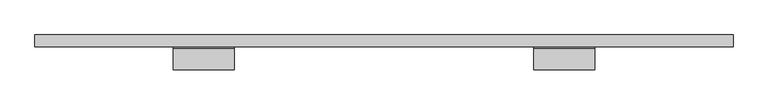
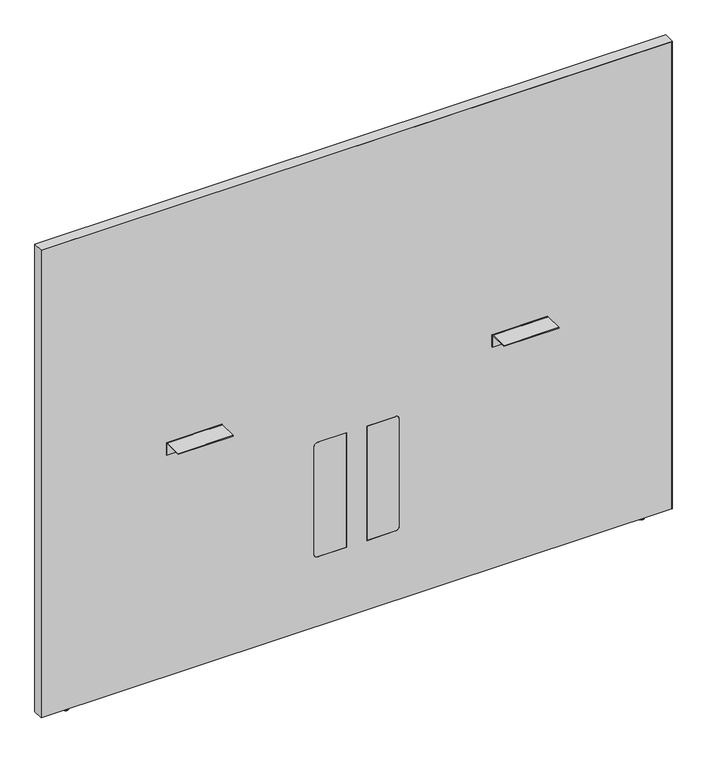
"""IFC4 building model written with IfcOpenShell, lengths in millimetres: furniture geometry, Steelcase - Answer Solution - Boundary Screen - Straight - Spanning : 54H x 69W."""

import ifcopenshell
import ifcopenshell.guid

model = None  # the IFC model being written
_history = None  # IfcOwnerHistory: only IFC2X3 demands one
_inside = {}  # id of a spatial element -> (the spatial element, [elements in it])
_under = {}  # id of a project, library or spatial element -> (it, [spatial elements below it])
_declared = {}  # id of a project -> (the project, [libraries it declares])
_typed = {}  # id of a type object -> (the type object, [elements of that type])
_made_of = {}  # id of a material, layer set ... -> (it, [elements and type objects made of it])


def new_model(schema):
    """Start an empty IFC model of exactly this schema.

    Asked for "IFC4X3", IfcOpenShell would pick the latest addendum, in which some entities
    have other attributes; the version numbers below select the first issue.
    IFC2X3 requires an IfcOwnerHistory on every rooted entity: one is made here for all.
    """
    global model, _history
    if schema == "IFC4X3":
        model = ifcopenshell.file(schema_version=(4, 3, 0, 0))
    else:
        model = ifcopenshell.file(schema=schema)
    _inside.clear()
    _under.clear()
    _declared.clear()
    _typed.clear()
    _made_of.clear()
    _history = None
    if model.schema == "IFC2X3":
        org = make("IfcOrganization", Name="unknown")
        user = make(
            "IfcPersonAndOrganization",
            ThePerson=make("IfcPerson", FamilyName="unknown"),
            TheOrganization=org,
        )
        app = make(
            "IfcApplication",
            ApplicationDeveloper=org,
            Version="unknown",
            ApplicationFullName="unknown",
            ApplicationIdentifier="unknown",
        )
        _history = make(
            "IfcOwnerHistory",
            OwningUser=user,
            OwningApplication=app,
            ChangeAction="ADDED",
            CreationDate=0,
        )
    return model


def make(cls, **values):
    """One entity of the class cls with the attributes given. An attribute that is None is left unset."""
    return model.create_entity(
        cls, **{name: value for name, value in values.items() if value is not None}
    )


def rooted(cls, **values):
    """An entity with a GlobalId (a new one), such as an element, a storey or a relation."""
    return make(cls, GlobalId=ifcopenshell.guid.new(), OwnerHistory=_history, **values)


def si_unit(unit_type, name, prefix=None):
    """IfcSIUnit, for example si_unit("LENGTHUNIT", "METRE", prefix="MILLI")."""
    return make("IfcSIUnit", UnitType=unit_type, Prefix=prefix, Name=name)


def assignment(units):
    """IfcUnitAssignment: the units of a project."""
    return None if units is None else make("IfcUnitAssignment", Units=units)


def point(xyz):
    """IfcCartesianPoint."""
    return None if xyz is None else make("IfcCartesianPoint", Coordinates=xyz)


def direction(xyz):
    """IfcDirection."""
    return None if xyz is None else make("IfcDirection", DirectionRatios=xyz)


def frame(location, z_axis=None, x_axis=None):
    """IfcAxis2Placement3D, a coordinate frame: its origin and axes. An axis left out is left unset."""
    return make(
        "IfcAxis2Placement3D",
        Location=point(location),
        Axis=direction(z_axis),
        RefDirection=direction(x_axis),
    )


def frame_2d(location, x_axis=None):
    """IfcAxis2Placement2D, a coordinate frame in the plane: its origin and x axis."""
    return make(
        "IfcAxis2Placement2D", Location=point(location), RefDirection=direction(x_axis)
    )


def origin():
    """The frame at (0, 0, 0) with its axes left unset."""
    return frame((0.0, 0.0, 0.0))


def place(relative_to, where):
    """IfcLocalPlacement: puts the frame where relative to a parent placement (None: the world)."""
    return make(
        "IfcLocalPlacement", PlacementRelTo=relative_to, RelativePlacement=where
    )


def context(
    kind, dimensions, precision=None, world=None, true_north=None, identifier=None
):
    """IfcGeometricRepresentationContext, for example the 3D "Model" context."""
    return make(
        "IfcGeometricRepresentationContext",
        ContextIdentifier=identifier,
        ContextType=kind,
        CoordinateSpaceDimension=dimensions,
        Precision=precision,
        WorldCoordinateSystem=world,
        TrueNorth=true_north,
    )


def project(units=None, contexts=None):
    """IfcProject with its units and contexts."""
    return rooted(
        "IfcProject",
        Name="project",
        RepresentationContexts=contexts,
        UnitsInContext=assignment(units),
    )


def spatial(cls, under=None, at=None, **own):
    """A site, building, storey or space (cls), placed at a placement, below another one or the project."""
    s = rooted(cls, ObjectPlacement=at, **own)
    if under is not None:
        _under.setdefault(under.id(), (under, []))[1].append(s)
    return s


def polyline(points):
    """IfcPolyline through the points."""
    return make("IfcPolyline", Points=[point(p) for p in points])


def circle_curve(where, radius):
    """IfcCircle in the frame where."""
    return make("IfcCircle", Position=where, Radius=radius)


def ellipse_curve(where, semi_axis1, semi_axis2):
    """IfcEllipse in the frame where."""
    return make(
        "IfcEllipse", Position=where, SemiAxis1=semi_axis1, SemiAxis2=semi_axis2
    )


def trimmed(basis, trim1, trim2, sense, master):
    """IfcTrimmedCurve: the piece of a basis curve between two trims."""
    return make(
        "IfcTrimmedCurve",
        BasisCurve=basis,
        Trim1=trim1,
        Trim2=trim2,
        SenseAgreement=sense,
        MasterRepresentation=master,
    )


def segment(curve, same_sense, transition):
    """IfcCompositeCurveSegment."""
    return make(
        "IfcCompositeCurveSegment",
        Transition=transition,
        SameSense=same_sense,
        ParentCurve=curve,
    )


def composite_curve(segments, self_intersect=None):
    """IfcCompositeCurve: segments joined end to end."""
    return make("IfcCompositeCurve", Segments=segments, SelfIntersect=self_intersect)


def outline(outer, holes=None, kind="AREA"):
    """IfcArbitraryClosedProfileDef: a profile drawn as a closed curve; with holes, ...WithVoids."""
    if holes is None:
        return make("IfcArbitraryClosedProfileDef", ProfileType=kind, OuterCurve=outer)
    return make(
        "IfcArbitraryProfileDefWithVoids",
        ProfileType=kind,
        OuterCurve=outer,
        InnerCurves=holes,
    )


def extrude(swept, where, along, depth):
    """IfcExtrudedAreaSolid: the profile swept, set in the frame where, extruded along a direction by depth."""
    return make(
        "IfcExtrudedAreaSolid",
        SweptArea=swept,
        Position=where,
        ExtrudedDirection=direction(along),
        Depth=depth,
    )


def shape(context_of_items, identifier, shape_type, items):
    """IfcShapeRepresentation: the items that make up one representation, for example the "Body"."""
    return make(
        "IfcShapeRepresentation",
        ContextOfItems=context_of_items,
        RepresentationIdentifier=identifier,
        RepresentationType=shape_type,
        Items=items,
    )


def source(mapping_origin, context_of_items, identifier, shape_type, items):
    """IfcRepresentationMap: a shape defined once, which mapped items show again and again."""
    return make(
        "IfcRepresentationMap",
        MappingOrigin=mapping_origin,
        MappedRepresentation=shape(context_of_items, identifier, shape_type, items),
    )


def transform(
    local_origin,
    x_axis=None,
    y_axis=None,
    z_axis=None,
    scale=None,
    scale2=None,
    scale3=None,
    uniform=True,
):
    """IfcCartesianTransformationOperator3D, or its non-uniform kind. x_axis, y_axis, z_axis: its Axis1, 2, 3."""
    if uniform:
        return make(
            "IfcCartesianTransformationOperator3D",
            Axis1=direction(x_axis),
            Axis2=direction(y_axis),
            LocalOrigin=point(local_origin),
            Scale=scale,
            Axis3=direction(z_axis),
        )
    return make(
        "IfcCartesianTransformationOperator3DnonUniform",
        Axis1=direction(x_axis),
        Axis2=direction(y_axis),
        LocalOrigin=point(local_origin),
        Scale=scale,
        Axis3=direction(z_axis),
        Scale2=scale2,
        Scale3=scale3,
    )


def mapped(mapping_source, mapping_target):
    """IfcMappedItem: shows the shape of a source again, moved by a transform."""
    return make(
        "IfcMappedItem", MappingSource=mapping_source, MappingTarget=mapping_target
    )


def made_of(thing, what):
    """Note that an element or type object is made of a material, layer set ...; save() writes the relation."""
    if what is not None:
        _made_of.setdefault(what.id(), (what, []))[1].append(thing)
    return thing


def element(
    cls,
    number,
    at=None,
    inside=None,
    cuts=None,
    type_object=None,
    material=None,
    context=None,
    identifier="Body",
    shape_type=None,
    held_by="IfcProductDefinitionShape",
    body=None,
    shapes=None,
    **own,
):
    """One element of the class cls, such as IfcWall. Its Tag is "e" and its number.

    at: its placement. inside: the storey or other place that contains it. cuts: it is an
    opening in that element (IfcRelVoidsElement). A single representation is given by context,
    identifier, shape_type and body (its items); several are given by shapes. held_by: the class
    of the entity that holds the representations. save() writes the other relations.
    """
    e = rooted(cls, Tag="e%d" % number, ObjectPlacement=at, **own)
    if body is not None:
        shapes = [shape(context, identifier, shape_type, body)]
    if shapes is not None:
        e.Representation = make(held_by, Representations=shapes)
    if inside is not None:
        _inside.setdefault(inside.id(), (inside, []))[1].append(e)
    if cuts is not None:
        rooted(
            "IfcRelVoidsElement", RelatingBuildingElement=cuts, RelatedOpeningElement=e
        )
    if type_object is not None:
        _typed.setdefault(type_object.id(), (type_object, []))[1].append(e)
    return made_of(e, material)


def aggregate(whole, parts):
    """IfcRelAggregates: a whole, such as a stair, and the parts it consists of."""
    return rooted("IfcRelAggregates", RelatingObject=whole, RelatedObjects=parts)


def save(model, path):
    """Write the relations noted so far, then the file.

    IfcRelAggregates (storeys below a building ...), IfcRelContainedInSpatialStructure (elements
    in a storey), IfcRelDefinesByType, IfcRelAssociatesMaterial and IfcRelDeclares: one each for
    every whole, place, type object, material and project.
    """
    for whole, parts in _under.values():
        aggregate(whole, parts)
    for where, things in _inside.values():
        rooted(
            "IfcRelContainedInSpatialStructure",
            RelatedElements=things,
            RelatingStructure=where,
        )
    for kind, things in _typed.values():
        rooted("IfcRelDefinesByType", RelatedObjects=things, RelatingType=kind)
    for what, things in _made_of.values():
        rooted("IfcRelAssociatesMaterial", RelatedObjects=things, RelatingMaterial=what)
    for by, libraries in _declared.values():
        rooted("IfcRelDeclares", RelatingContext=by, RelatedDefinitions=libraries)
    model.write(path)


def plane_surface(at):
    """IfcPlane: the flat surface through the origin of the frame at, square to its z axis."""
    return make("IfcPlane", Position=at)


def cylinder_surface(at, radius):
    """IfcCylindricalSurface: all points at the distance radius from the z axis of the frame at."""
    return make("IfcCylindricalSurface", Position=at, Radius=radius)


def revolved_surface(curve, axis_point, axis_direction):
    """IfcSurfaceOfRevolution: the curve turned about the line through axis_point along axis_direction."""
    return make(
        "IfcSurfaceOfRevolution",
        SweptCurve=make("IfcArbitraryOpenProfileDef", ProfileType="CURVE", Curve=curve),
        AxisPosition=make("IfcAxis1Placement", Location=point(axis_point), Axis=direction(axis_direction)),
    )


def advanced_brep(points, edges, surfaces, faces):
    """IfcAdvancedBrep: a solid bounded by faces that lie on surfaces and meet in shared edges.

    An edge is (start, end): straight between two places in points (the first is 0);
    or (start, end, curve); or (start, end, curve, False) where it runs against its curve.
    A face is (place in surfaces, loops), or (place, loops, False) where it looks against
    its surface's normal. A loop lists edges by number (the first is 1), with a minus sign
    where the edge is run from its end to its start. The first loop is the outer one.
    """
    corners = [point(p) for p in points]
    vertices = [make("IfcVertexPoint", VertexGeometry=c) for c in corners]
    made = []
    for start, end, *more in edges:
        made.append(
            make(
                "IfcEdgeCurve",
                EdgeStart=vertices[start],
                EdgeEnd=vertices[end],
                EdgeGeometry=more[0] if more else make("IfcPolyline", Points=[corners[start], corners[end]]),
                SameSense=more[1] if len(more) > 1 else True,
            )
        )
    hull = []
    for where, loops, *sense in faces:
        bounds = []
        for j, loop in enumerate(loops):
            ring = [make("IfcOrientedEdge", EdgeElement=made[abs(k) - 1], Orientation=k > 0) for k in loop]
            bounds.append(
                make(
                    "IfcFaceOuterBound" if j == 0 else "IfcFaceBound",
                    Bound=make("IfcEdgeLoop", EdgeList=ring),
                    Orientation=True,
                )
            )
        hull.append(make("IfcAdvancedFace", Bounds=bounds, FaceSurface=surfaces[where], SameSense=sense[0] if sense else True))
    return make("IfcAdvancedBrep", Outer=make("IfcClosedShell", CfsFaces=hull))


def furniture_fd7a8a01(model_context):
    return source(origin(), model_context, "Body", "SolidModel", [
        advanced_brep(
        [(-569.2902705, -14.8449166, 9.9059849), (-569.2902705, -5.9309607, 9.9059849), (-569.2902705, -23.7588726, 9.9059849), (-569.2902705, -5.9309607, 2.9673238), (-569.2902705, -23.7588726, 2.9673238), (-569.2902705, -6.8982978, 2.9673238), (-569.2902705, -22.7915354, 2.9673238), (-569.2902705, -6.8982978, 1.6569081), (-569.2902705, -22.7915354, 1.6569081), (-569.2902705, -8.5552059, 0.0), (-569.2902705, -21.1346274, 0.0), (-569.2902705, -14.8449166, 0.0)],
        [
            (0, 1),
            (1, 2, circle_curve(frame((-569.2902705, -14.8449166, 9.9059849), z_axis=(0.0, 0.0, 1.0), x_axis=(0.0, 1.0, 0.0)), 8.913956)),
            (2, 0),
            (2, 1, circle_curve(frame((-569.2902705, -14.8449166, 9.9059849), z_axis=(0.0, 0.0, 1.0), x_axis=(0.0, 1.0, 0.0)), 8.913956)),
            (1, 3),
            (3, 4, circle_curve(frame((-569.2902705, -14.8449166, 2.9673238), z_axis=(0.0, 0.0, 1.0), x_axis=(0.0, 1.0, 0.0)), 8.913956)),
            (4, 2),
            (4, 3, circle_curve(frame((-569.2902705, -14.8449166, 2.9673238), z_axis=(0.0, 0.0, 1.0), x_axis=(0.0, 1.0, 0.0)), 8.913956)),
            (3, 5),
            (5, 6, circle_curve(frame((-569.2902705, -14.8449166, 2.9673238), z_axis=(0.0, 0.0, 1.0), x_axis=(0.0, 1.0, 0.0)), 7.9466188)),
            (6, 4),
            (6, 5, circle_curve(frame((-569.2902705, -14.8449166, 2.9673238), z_axis=(0.0, 0.0, 1.0), x_axis=(0.0, 1.0, 0.0)), 7.9466188)),
            (5, 7),
            (7, 8, circle_curve(frame((-569.2902705, -14.8449166, 1.6569081), z_axis=(0.0, 0.0, 1.0), x_axis=(0.0, 1.0, 0.0)), 7.9466188)),
            (8, 6),
            (8, 7, circle_curve(frame((-569.2902705, -14.8449166, 1.6569081), z_axis=(0.0, 0.0, 1.0), x_axis=(0.0, 1.0, 0.0)), 7.9466188)),
            (7, 9, circle_curve(frame((-569.2902705, -8.5552059, 1.6569081), z_axis=(-1.0, 0.0, 0.0), x_axis=(0.0, 1.0, 0.0)), 1.6569081)),
            (9, 10, circle_curve(frame((-569.2902705, -14.8449166, 0.0), z_axis=(0.0, 0.0, 1.0), x_axis=(0.0, 1.0, 0.0)), 6.2897107)),
            (10, 8, circle_curve(frame((-569.2902705, -21.1346274, 1.6569081), z_axis=(-1.0, 0.0, 0.0), x_axis=(0.0, -1.0, 0.0)), 1.6569081)),
            (10, 9, circle_curve(frame((-569.2902705, -14.8449166, 0.0), z_axis=(0.0, 0.0, 1.0), x_axis=(0.0, 1.0, 0.0)), 6.2897107)),
            (9, 11),
            (11, 10),
        ],
        [
            plane_surface(frame((-569.2902705, -14.8449166, 9.9059849), z_axis=(0.0, 0.0, 1.0), x_axis=(0.0, 1.0, 0.0))),
            cylinder_surface(frame((-569.2902705, -14.8449166, 9.9059849), z_axis=(0.0, 0.0, 1.0), x_axis=(0.0, 1.0, 0.0)), 8.913956),
            plane_surface(frame((-569.2902705, -14.8449166, 2.9673238), z_axis=(0.0, 0.0, -1.0), x_axis=(0.0, 1.0, 0.0))),
            cylinder_surface(frame((-569.2902705, -14.8449166, 9.9059849), z_axis=(0.0, 0.0, 1.0), x_axis=(0.0, 1.0, 0.0)), 7.9466188),
            revolved_surface(trimmed(ellipse_curve(frame((-569.2902705, -8.5552059, 1.6569081), z_axis=(1.0, 0.0, 0.0), x_axis=(0.0, 1.0, 0.0)), 1.6569081, 1.6569081), [point((-569.2902705, -8.5552059, 0.0))], [point((-569.2902705, -6.8982978, 1.6569081))], True, "CARTESIAN"), (-569.2902705, -14.8449166, 9.9059849), (0.0, 0.0, 1.0)),
            plane_surface(frame((-569.2902705, -14.8449166, 0.0), z_axis=(0.0, 0.0, -1.0), x_axis=(0.0, 1.0, 0.0))),
        ],
        [
            (0, [[1, 2, 3]]),
            (0, [[-3, 4, -1]]),
            (1, [[-2, 5, 6, 7]]),
            (1, [[-4, -7, 8, -5]]),
            (2, [[-6, 9, 10, 11]]),
            (2, [[-8, -11, 12, -9]]),
            (3, [[-10, 13, 14, 15]]),
            (3, [[-12, -15, 16, -13]]),
            (4, [[-14, 17, 18, 19]]),
            (4, [[-16, -19, 20, -17]]),
            (5, [[-18, 21, 22]]),
            (5, [[-20, -22, -21]]),
        ],
    ),
        extrude(outline(composite_curve([segment(polyline([(-86.8398151, 696.4680019), (-86.8398151, 698.5), (-34.9450855, 698.5)]), True, "CONTINUOUS"), segment(trimmed(circle_curve(frame_2d((-34.9450855, 693.2447477)), 5.2552523), [point((-34.9450855, 698.5))], [point((-29.6898332, 693.2447477))], False, "CARTESIAN"), True, "CONTINUOUS"), segment(polyline([(-29.6898332, 693.2447477), (-29.6898332, 660.4), (-31.7218162, 660.4), (-31.7218162, 693.0058743)]), True, "CONTINUOUS"), segment(trimmed(circle_curve(frame_2d((-35.1839438, 693.0058743)), 3.4621276), [point((-31.7218162, 693.0058743))], [point((-35.1839438, 696.4680019))], True, "CARTESIAN"), True, "CONTINUOUS"), segment(polyline([(-35.1839438, 696.4680019), (-86.8398151, 696.4680019)]), True, "CONTINUOUS")], self_intersect=False)), frame((605.9282189, 0.0, 0.0), z_axis=(1.0, 0.0, 0.0), x_axis=(0.0, 1.0, 0.0)), (0.0, 0.0, 1.0), 152.4000969),
        extrude(outline(composite_curve([segment(polyline([(-86.8398151, 696.4680019), (-86.8398151, 698.5), (-34.9450855, 698.5)]), True, "CONTINUOUS"), segment(trimmed(circle_curve(frame_2d((-34.9450855, 693.2447477)), 5.2552523), [point((-34.9450855, 698.5))], [point((-29.6898332, 693.2447477))], False, "CARTESIAN"), True, "CONTINUOUS"), segment(polyline([(-29.6898332, 693.2447477), (-29.6898332, 660.4), (-31.7218162, 660.4), (-31.7218162, 693.0058743)]), True, "CONTINUOUS"), segment(trimmed(circle_curve(frame_2d((-35.1839438, 693.0058743)), 3.4621276), [point((-31.7218162, 693.0058743))], [point((-35.1839438, 696.4680019))], True, "CARTESIAN"), True, "CONTINUOUS"), segment(polyline([(-35.1839438, 696.4680019), (-86.8398151, 696.4680019)]), True, "CONTINUOUS")], self_intersect=False)), frame((-298.6884581, 0.0, 0.0), z_axis=(1.0, 0.0, 0.0), x_axis=(0.0, 1.0, 0.0)), (0.0, 0.0, 1.0), 152.4000969),
        advanced_brep(
        [(1028.9286488, -23.7588726, 9.9059849), (1028.9286488, -5.9309607, 9.9059849), (1028.9286488, -14.8449166, 9.9059849), (1028.9286488, -23.7588726, 2.9673238), (1028.9286488, -5.9309607, 2.9673238), (1028.9286488, -22.7915354, 2.9673238), (1028.9286488, -6.8982978, 2.9673238), (1028.9286488, -22.7915354, 1.6569081), (1028.9286488, -6.8982978, 1.6569081), (1028.9286488, -21.1346274, 0.0), (1028.9286488, -8.5552059, 0.0), (1028.9286488, -14.8449166, 0.0)],
        [
            (0, 1, circle_curve(frame((1028.9286488, -14.8449166, 9.9059849), z_axis=(0.0, 0.0, 1.0), x_axis=(0.0, 1.0, 0.0)), 8.913956)),
            (1, 2),
            (2, 0),
            (1, 0, circle_curve(frame((1028.9286488, -14.8449166, 9.9059849), z_axis=(0.0, 0.0, 1.0), x_axis=(0.0, 1.0, 0.0)), 8.913956)),
            (3, 4, circle_curve(frame((1028.9286488, -14.8449166, 2.9673238), z_axis=(0.0, 0.0, 1.0), x_axis=(0.0, 1.0, 0.0)), 8.913956)),
            (4, 1),
            (0, 3),
            (4, 3, circle_curve(frame((1028.9286488, -14.8449166, 2.9673238), z_axis=(0.0, 0.0, 1.0), x_axis=(0.0, 1.0, 0.0)), 8.913956)),
            (5, 6, circle_curve(frame((1028.9286488, -14.8449166, 2.9673238), z_axis=(0.0, 0.0, 1.0), x_axis=(0.0, 1.0, 0.0)), 7.9466188)),
            (6, 4),
            (3, 5),
            (6, 5, circle_curve(frame((1028.9286488, -14.8449166, 2.9673238), z_axis=(0.0, 0.0, 1.0), x_axis=(0.0, 1.0, 0.0)), 7.9466188)),
            (7, 8, circle_curve(frame((1028.9286488, -14.8449166, 1.6569081), z_axis=(0.0, 0.0, 1.0), x_axis=(0.0, 1.0, 0.0)), 7.9466188)),
            (8, 6),
            (5, 7),
            (8, 7, circle_curve(frame((1028.9286488, -14.8449166, 1.6569081), z_axis=(0.0, 0.0, 1.0), x_axis=(0.0, 1.0, 0.0)), 7.9466188)),
            (9, 10, circle_curve(frame((1028.9286488, -14.8449166, 0.0), z_axis=(0.0, 0.0, 1.0), x_axis=(0.0, 1.0, 0.0)), 6.2897107)),
            (10, 8, circle_curve(frame((1028.9286488, -8.5552059, 1.6569081), z_axis=(1.0, 0.0, 0.0), x_axis=(0.0, 1.0, 0.0)), 1.6569081)),
            (7, 9, circle_curve(frame((1028.9286488, -21.1346274, 1.6569081), z_axis=(1.0, 0.0, 0.0), x_axis=(0.0, -1.0, 0.0)), 1.6569081)),
            (10, 9, circle_curve(frame((1028.9286488, -14.8449166, 0.0), z_axis=(0.0, 0.0, 1.0), x_axis=(0.0, 1.0, 0.0)), 6.2897107)),
            (11, 10),
            (9, 11),
        ],
        [
            plane_surface(frame((1028.9286488, -14.8449166, 9.9059849), z_axis=(0.0, 0.0, 1.0), x_axis=(0.0, 1.0, 0.0))),
            cylinder_surface(frame((1028.9286488, -14.8449166, 9.9059849), z_axis=(0.0, 0.0, -1.0), x_axis=(0.0, 1.0, 0.0)), 8.913956),
            plane_surface(frame((1028.9286488, -14.8449166, 2.9673238), z_axis=(0.0, 0.0, -1.0), x_axis=(0.0, 1.0, 0.0))),
            cylinder_surface(frame((1028.9286488, -14.8449166, 9.9059849), z_axis=(0.0, 0.0, -1.0), x_axis=(0.0, 1.0, 0.0)), 7.9466188),
            revolved_surface(trimmed(ellipse_curve(frame((1028.9286488, -8.5552059, 1.6569081), z_axis=(-1.0, 0.0, 0.0), x_axis=(0.0, 1.0, 0.0)), 1.6569081, 1.6569081), [point((1028.9286488, -6.8982978, 1.6569081))], [point((1028.9286488, -8.5552059, 0.0))], True, "CARTESIAN"), (1028.9286488, -14.8449166, 9.9059849), (0.0, 0.0, -1.0)),
            plane_surface(frame((1028.9286488, -14.8449166, 0.0), z_axis=(0.0, 0.0, -1.0), x_axis=(0.0, 1.0, 0.0))),
        ],
        [
            (0, [[1, 2, 3]]),
            (0, [[4, -3, -2]]),
            (1, [[5, 6, -1, 7]]),
            (1, [[8, -7, -4, -6]]),
            (2, [[9, 10, -5, 11]]),
            (2, [[12, -11, -8, -10]]),
            (3, [[13, 14, -9, 15]]),
            (3, [[16, -15, -12, -14]]),
            (4, [[17, 18, -13, 19]]),
            (4, [[20, -19, -16, -18]]),
            (5, [[21, -17, 22]]),
            (5, [[-22, -20, -21]]),
        ],
    ),
        advanced_brep(
        [(1105.0780168, 0.0, 1381.542118), (1105.0780168, 0.0, 9.9059849), (-645.4902221, 0.0, 9.9059849), (-645.4902221, 0.0, 1381.542118), (1105.0780168, -29.6898332, 1381.542118), (-645.4902221, -29.6898332, 1381.542118), (-645.4902221, -29.6898332, 9.9059849), (1105.0780168, -29.6898332, 9.9059849), (337.7883813, -29.6898332, 549.6162029), (347.9483813, -29.6898332, 539.4562029), (347.9483813, -29.6898332, 223.9362137), (337.7883813, -29.6898332, 213.7762137), (258.1344836, -29.6898332, 213.7762137), (258.1344836, -29.6898332, 549.6162029), (121.849997, -29.6898332, 549.6162029), (201.5038947, -29.6898332, 549.6162029), (201.5038947, -29.6898332, 213.7762137), (121.849997, -29.6898332, 213.7762137), (111.689997, -29.6898332, 223.9362137), (111.689997, -29.6898332, 539.4562029), (258.1344836, -29.0550397, 549.6162029), (337.7883813, -29.0550397, 549.6162029), (258.1344836, -29.0550397, 213.7762137), (337.7883813, -29.0550397, 213.7762137), (347.9483813, -29.0550397, 223.9362137), (347.9483813, -29.0550397, 539.4562029), (121.849997, -29.0550397, 549.6162029), (111.689997, -29.0550397, 539.4562029), (111.689997, -29.0550397, 223.9362137), (121.849997, -29.0550397, 213.7762137), (201.5038947, -29.0550397, 213.7762137), (201.5038947, -29.0550397, 549.6162029)],
        [
            (0, 1),
            (1, 2),
            (2, 3),
            (3, 0),
            (4, 5),
            (5, 6),
            (6, 7),
            (7, 4),
            (8, 9, circle_curve(frame((337.7883813, -29.6898332, 539.4562029), z_axis=(0.0, 1.0, 0.0), x_axis=(0.0, 0.0, 1.0)), 10.16)),
            (9, 10),
            (10, 11, circle_curve(frame((337.7883813, -29.6898332, 223.9362137), z_axis=(0.0, 1.0, 0.0), x_axis=(0.0, 0.0, 1.0)), 10.16)),
            (11, 12),
            (12, 13),
            (13, 8),
            (14, 15),
            (15, 16),
            (16, 17),
            (17, 18, circle_curve(frame((121.849997, -29.6898332, 223.9362137), z_axis=(0.0, 1.0, 0.0), x_axis=(0.0, 0.0, 1.0)), 10.16)),
            (18, 19),
            (19, 14, circle_curve(frame((121.849997, -29.6898332, 539.4562029), z_axis=(0.0, 1.0, 0.0), x_axis=(0.0, 0.0, 1.0)), 10.16)),
            (0, 4),
            (7, 1),
            (6, 2),
            (5, 3),
            (13, 20),
            (20, 21),
            (21, 8),
            (12, 22),
            (22, 20),
            (11, 23),
            (23, 22),
            (10, 24),
            (24, 23, circle_curve(frame((337.7883813, -29.0550397, 223.9362137), z_axis=(0.0, 1.0, 0.0), x_axis=(0.0, 0.0, 1.0)), 10.16)),
            (9, 25),
            (25, 24),
            (21, 25, circle_curve(frame((337.7883813, -29.0550397, 539.4562029), z_axis=(0.0, 1.0, 0.0), x_axis=(0.0, 0.0, 1.0)), 10.16)),
            (26, 27, circle_curve(frame((121.849997, -29.0550397, 539.4562029), z_axis=(0.0, -1.0, 0.0), x_axis=(0.0, 0.0, 1.0)), 10.16)),
            (27, 28),
            (28, 29, circle_curve(frame((121.849997, -29.0550397, 223.9362137), z_axis=(0.0, -1.0, 0.0), x_axis=(0.0, 0.0, 1.0)), 10.16)),
            (29, 30),
            (30, 31),
            (31, 26),
            (19, 27),
            (26, 14),
            (18, 28),
            (17, 29),
            (16, 30),
            (15, 31),
        ],
        [
            plane_surface(frame((1105.0780168, 0.0, 1381.542118), z_axis=(0.0, 1.0, 0.0), x_axis=(0.0, 0.0, -1.0))),
            plane_surface(frame((1105.0780168, -29.6898332, 1381.542118), z_axis=(0.0, -1.0, 0.0), x_axis=(0.0, 0.0, 1.0))),
            plane_surface(frame((1105.0780168, 0.0, 1381.542118), z_axis=(1.0, 0.0, 0.0), x_axis=(0.0, -1.0, 0.0))),
            plane_surface(frame((1105.0780168, 0.0, 9.9059849), z_axis=(0.0, 0.0, -1.0), x_axis=(0.0, -1.0, 0.0))),
            plane_surface(frame((-645.4902221, 0.0, 9.9059849), z_axis=(-1.0, 0.0, 0.0), x_axis=(0.0, -1.0, 0.0))),
            plane_surface(frame((-645.4902221, 0.0, 1381.542118), z_axis=(0.0, 0.0, 1.0), x_axis=(0.0, -1.0, 0.0))),
            plane_surface(frame((337.7883813, 0.0, 549.6162029), z_axis=(0.0, 0.0, -1.0), x_axis=(0.0, -1.0, 0.0))),
            plane_surface(frame((258.1344836, 0.0, 549.6162029), z_axis=(1.0, 0.0, 0.0), x_axis=(0.0, -1.0, 0.0))),
            plane_surface(frame((258.1344836, 0.0, 213.7762137), z_axis=(0.0, 0.0, 1.0), x_axis=(0.0, -1.0, 0.0))),
            revolved_surface(polyline([(337.7883813, -29.6898332, 234.0962137), (337.7883813, -29.0550397, 234.0962137)]), (337.7883813, -29.6898332, 223.9362137), (0.0, -1.0, 0.0)),
            plane_surface(frame((347.9483813, 0.0, 223.9362137), z_axis=(-1.0, 0.0, 0.0), x_axis=(0.0, -1.0, 0.0))),
            revolved_surface(polyline([(337.7883813, -29.6898332, 549.6162029), (337.7883813, -29.0550397, 549.6162029)]), (337.7883813, -29.6898332, 539.4562029), (0.0, -1.0, 0.0)),
            plane_surface(frame((347.9483813, -29.0550397, 549.6162029), z_axis=(0.0, -1.0, 0.0), x_axis=(0.0, 0.0, 1.0))),
            revolved_surface(polyline([(121.849997, -29.6898332, 549.6162029), (121.849997, -29.0550397, 549.6162029)]), (121.849997, -29.6898332, 539.4562029), (0.0, -1.0, 0.0)),
            plane_surface(frame((111.689997, 0.0, 539.4562029), z_axis=(1.0, 0.0, 0.0), x_axis=(0.0, -1.0, 0.0))),
            revolved_surface(polyline([(121.849997, -29.6898332, 234.0962137), (121.849997, -29.0550397, 234.0962137)]), (121.849997, -29.6898332, 223.9362137), (0.0, -1.0, 0.0)),
            plane_surface(frame((121.849997, 0.0, 213.7762137), z_axis=(0.0, 0.0, 1.0), x_axis=(0.0, -1.0, 0.0))),
            plane_surface(frame((201.5038947, 0.0, 213.7762137), z_axis=(-1.0, 0.0, 0.0), x_axis=(0.0, -1.0, 0.0))),
            plane_surface(frame((201.5038947, 0.0, 549.6162029), z_axis=(0.0, 0.0, -1.0), x_axis=(0.0, -1.0, 0.0))),
        ],
        [
            (0, [[1, 2, 3, 4]]),
            (1, [[5, 6, 7, 8], [9, 10, 11, 12, 13, 14], [15, 16, 17, 18, 19, 20]]),
            (2, [[-1, 21, -8, 22]]),
            (3, [[-2, -22, -7, 23]]),
            (4, [[-3, -23, -6, 24]]),
            (5, [[-4, -24, -5, -21]]),
            (6, [[-14, 25, 26, 27]]),
            (7, [[-13, 28, 29, -25]]),
            (8, [[-12, 30, 31, -28]]),
            (9, [[-11, 32, 33, -30]]),
            (10, [[-10, 34, 35, -32]]),
            (11, [[-9, -27, 36, -34]]),
            (12, [[-26, -29, -31, -33, -35, -36]]),
            (12, [[37, 38, 39, 40, 41, 42]]),
            (13, [[-20, 43, -37, 44]]),
            (14, [[-19, 45, -38, -43]]),
            (15, [[-18, 46, -39, -45]]),
            (16, [[-17, 47, -40, -46]]),
            (17, [[-16, 48, -41, -47]]),
            (18, [[-15, -44, -42, -48]]),
        ],
    ),
        extrude(outline(composite_curve([segment(polyline([(549.6162029, 337.7883813), (549.6162029, 258.1344836), (213.7762137, 258.1344836), (213.7762137, 337.7883813)]), True, "CONTINUOUS"), segment(trimmed(circle_curve(frame_2d((223.9362137, 337.7883813)), 10.16), [point((213.7762137, 337.7883813))], [point((223.9362137, 347.9483813))], False, "CARTESIAN"), True, "CONTINUOUS"), segment(polyline([(223.9362137, 347.9483813), (539.4562029, 347.9483813)]), True, "CONTINUOUS"), segment(trimmed(circle_curve(frame_2d((539.4562029, 337.7883813)), 10.16), [point((539.4562029, 347.9483813))], [point((549.6162029, 337.7883813))], False, "CARTESIAN"), True, "CONTINUOUS")], self_intersect=False)), frame((0.0, -29.6898332, 0.0), z_axis=(0.0, 1.0, 0.0), x_axis=(0.0, 0.0, 1.0)), (0.0, 0.0, 1.0), 0.6347935),
        extrude(outline(composite_curve([segment(trimmed(circle_curve(frame_2d((539.4562029, 121.849997)), 10.16), [point((549.6162029, 121.849997))], [point((539.4562029, 111.689997))], False, "CARTESIAN"), True, "CONTINUOUS"), segment(polyline([(539.4562029, 111.689997), (223.9362137, 111.689997)]), True, "CONTINUOUS"), segment(trimmed(circle_curve(frame_2d((223.9362137, 121.849997)), 10.16), [point((223.9362137, 111.689997))], [point((213.7762137, 121.849997))], False, "CARTESIAN"), True, "CONTINUOUS"), segment(polyline([(213.7762137, 121.849997), (213.7762137, 201.5038947), (549.6162029, 201.5038947), (549.6162029, 121.849997)]), True, "CONTINUOUS")], self_intersect=False)), frame((0.0, -29.6898332, 0.0), z_axis=(0.0, 1.0, 0.0), x_axis=(0.0, 0.0, 1.0)), (0.0, 0.0, 1.0), 0.6347935),
        extrude(outline(polyline([(1382.522, 1106.1191891), (1382.522, -646.4808109), (9.9059849, -646.4808109), (9.9059849, -645.4902221), (1381.542118, -645.4902221), (1381.542118, 1105.0780168), (9.9059849, 1105.0780168), (9.9059849, 1106.1191891), (1382.522, 1106.1191891)])), frame((0.0, -29.6898332, 0.0), z_axis=(0.0, 1.0, 0.0), x_axis=(0.0, 0.0, 1.0)), (0.0, 0.0, 1.0), 29.6898332),
    ])


if __name__ == "__main__":
    model = new_model("IFC4")
    model_context = context("Model", 3, world=origin())
    ifc_project = project(units=[si_unit("LENGTHUNIT", "METRE", prefix="MILLI")], contexts=[model_context])
    site = spatial("IfcSite", under=ifc_project)
    building = spatial("IfcBuilding", under=site)
    placement = place(None, origin())
    furniture_shape = furniture_fd7a8a01(model_context)
    element("IfcFurniture", 1, ObjectType="Steelcase - Answer Solution - Boundary Screen - Straight - Spanning : 54H x 69W", at=placement, inside=building, context=model_context, shape_type="MappedRepresentation", body=[
        mapped(furniture_shape, transform((0.0, 0.0, 0.0), x_axis=(1.0, 0.0, 0.0), y_axis=(0.0, 1.0, 0.0), z_axis=(0.0, 0.0, 1.0))),
    ])
    save(model, "model.ifc")
